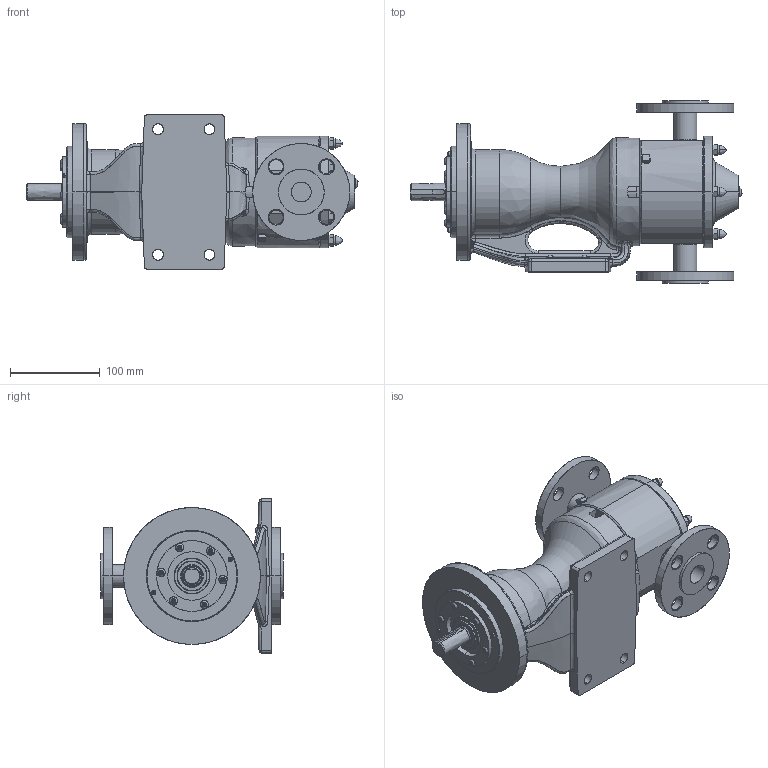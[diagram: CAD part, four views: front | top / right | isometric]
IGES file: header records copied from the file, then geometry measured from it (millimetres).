
Start section: SolidWorks IGES file using analytic representation for surfaces
Global section: file name: C:\Users\TDutcher\Desktop\HV-3933-VP\HV-3933-VP.IGS; native system: SolidWorks 2012; preprocessor: SolidWorks 2012; author: tdutcher; date: 140422.162522; units: inch
Bounding box: 369.36 x 203.2 x 171.45 mm (x, y, z)
Surface area: 277369.3 mm2 (no closed solid volume)
Topology: 0 solids, 0 shells, 835 faces, 14202 edges, 16129 vertices
Faces by surface type: revolution 419, bspline 416
